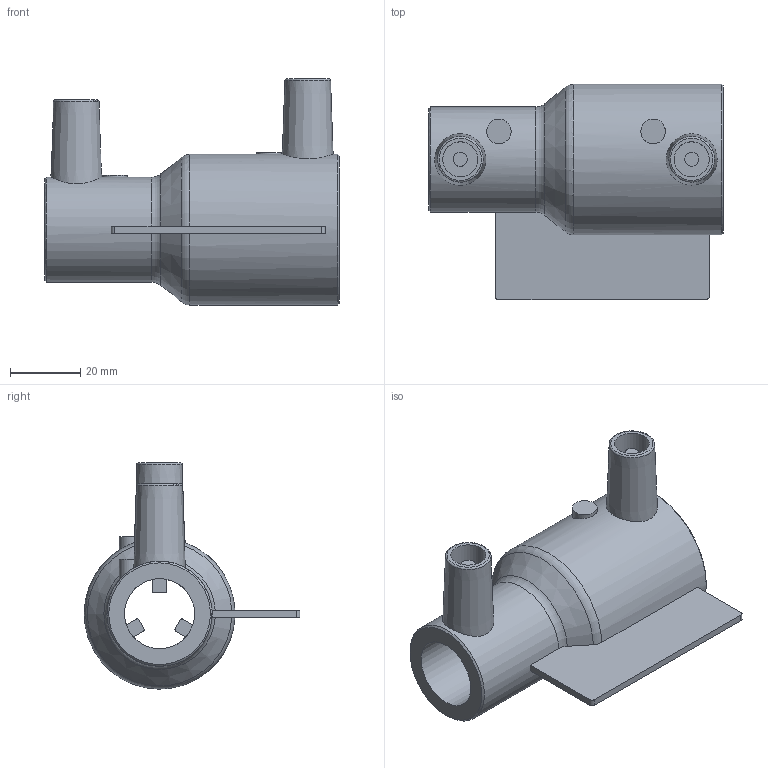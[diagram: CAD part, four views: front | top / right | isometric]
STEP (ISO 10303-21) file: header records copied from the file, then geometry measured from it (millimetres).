
FILE_DESCRIPTION(/* description */ ('Unknown'),/* implementation_level */ '2;1');
FILE_NAME(/* name */ 'REP032020C.P',/* time_stamp */ '2021-10-20T15:53:19+02:00',/* author */ ('Unknown'),/* organization */ ('Unknown'),/* preprocessor_version */ 'ST-DEVELOPER v16.7',/* originating_system */ 'Solid Edge',/* authorisation */ 'Unknown');
FILE_SCHEMA (('AUTOMOTIVE_DESIGN {1 0 10303 214 3 1 1}'));
Length unit declared in the file: millimetre
Products named in the file (1): REP032020C.P
Bounding box: 84 x 61.5 x 64.5 mm (x, y, z)
Volume: 54322.5 mm3; surface area: 24171.8 mm2
Topology: 1 solids, 1 shells, 58 faces, 138 edges, 89 vertices
Faces by surface type: plane 30, cylinder 18, cone 6, torus 4
Full cylindrical faces by diameter (mm): 4 x2, 7 x2, 10 x2, 20 x1, 30 x1, 32 x1, 43 x1
Entity records: 1622 total; most frequent: CARTESIAN_POINT 340, DIRECTION 272, ORIENTED_EDGE 224, EDGE_CURVE 112, AXIS2_PLACEMENT_3D 111, EDGE_LOOP 85, FACE_BOUND 85, VERTEX_POINT 81
